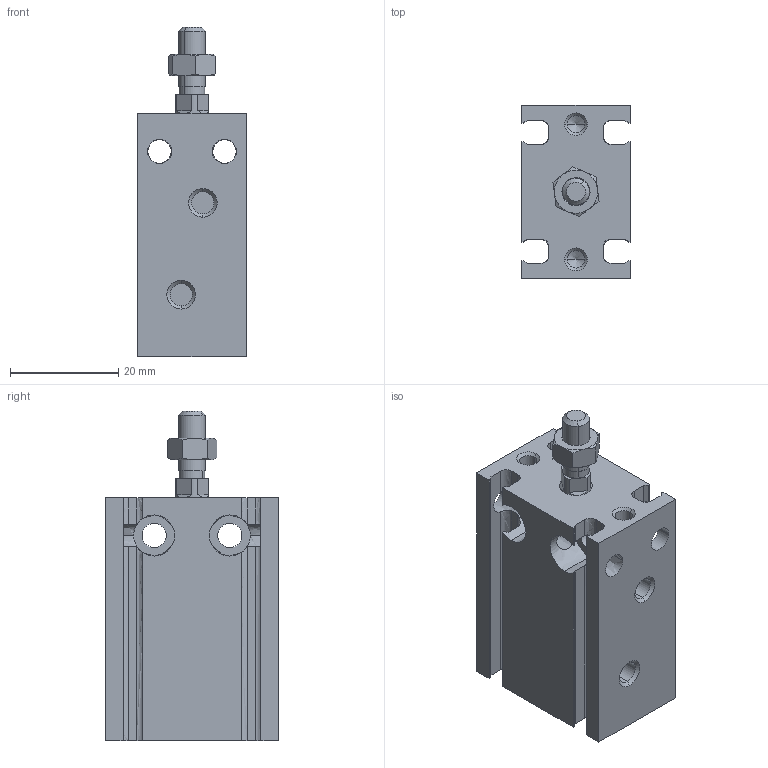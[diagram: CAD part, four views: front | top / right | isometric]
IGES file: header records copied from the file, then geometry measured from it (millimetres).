
Global section: file name: No Iges File Name specified; native system: Autodesk Inventor 2011; preprocessor: AutoDesk Inventor Iges Exporter R2011; author: airolcr1; date: 20110614.145602; units: millimetre
Bounding box: 20 x 32 x 61 mm (x, y, z)
Volume: 22852.8 mm3; surface area: 10356.6 mm2
Topology: 3 solids, 3 shells, 184 faces, 494 edges, 314 vertices
Faces by surface type: bspline 82, plane 54, revolution 28, cone 14, cylinder 6
